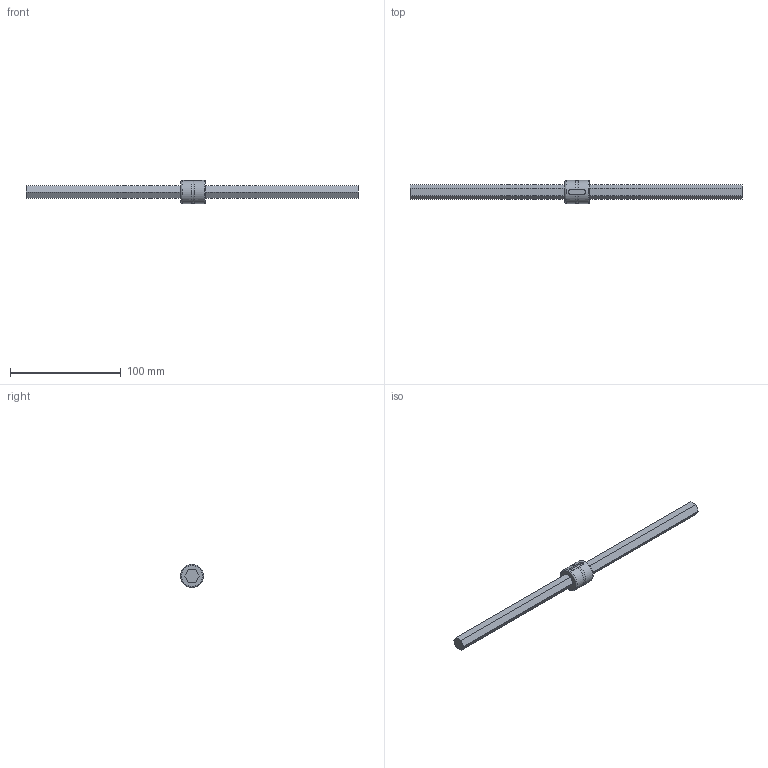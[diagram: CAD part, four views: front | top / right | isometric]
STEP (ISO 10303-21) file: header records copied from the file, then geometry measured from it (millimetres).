
FILE_DESCRIPTION((''),'2;1');
FILE_NAME('D:\製品 (図面)\カタログ用3D\ネジ関連\STEP形式\HTS\HTS11.stp','2010-06-01T16:49:44',('Tsuchiya'),(''),'Autodesk Inventor 10','Autodesk Inventor 10','');
FILE_SCHEMA(('AUTOMOTIVE_DESIGN { 1 0 10303 214 1 1 1 1 }'));
Length unit declared in the file: millimetre
Products named in the file (3): HTS11; HTS111; HTS112
Assembly tree (2 placements, depth 2):
  HTS11
    HTS111
    HTS112
Bounding box: 300 x 21 x 21 mm (x, y, z)
Volume: 36451.9 mm3; surface area: 14531.5 mm2
Topology: 2 solids, 2 shells, 36 faces, 89 edges, 59 vertices
Faces by surface type: plane 27, cylinder 6, torus 2, bspline 1
Full cylindrical faces by diameter (mm): 1.5 x1, 13.5 x1, 21 x2
Entity records: 1360 total; most frequent: CARTESIAN_POINT 461, DIRECTION 164, ORIENTED_EDGE 164, EDGE_CURVE 82, VECTOR 64, LINE 64, VERTEX_POINT 58, AXIS2_PLACEMENT_3D 50
